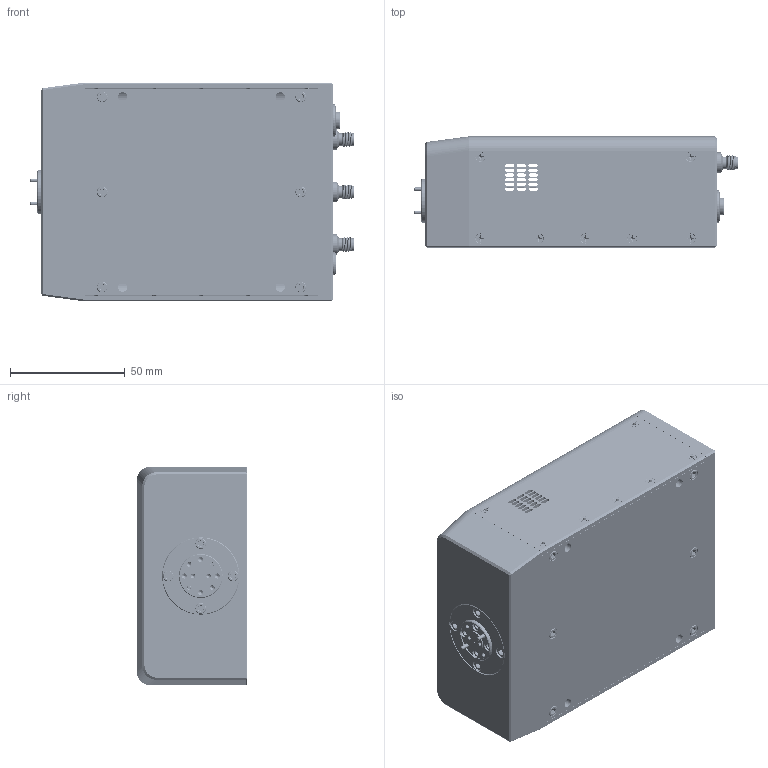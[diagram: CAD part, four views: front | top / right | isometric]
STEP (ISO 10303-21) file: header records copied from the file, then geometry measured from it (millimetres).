
FILE_DESCRIPTION (( 'STEP AP214' ), '1' );
FILE_NAME ('TO-TD-A Mountable.STEP', '2024-11-20T20:51:38', ( '' ), ( '' ), 'SwSTEP 2.0', 'SolidWorks 2021', '' );
FILE_SCHEMA (( 'AUTOMOTIVE_DESIGN' ));
Length unit declared in the file: inch
Products named in the file (1): TO-TD-A Mountable
Bounding box: 140.66 x 48.26 x 95.25 mm (x, y, z)
Volume: 178099.7 mm3; surface area: 116517.2 mm2
Topology: 62 solids, 62 shells, 3752 faces, 9952 edges, 6327 vertices
Faces by surface type: cylinder 1751, plane 942, cone 679, bspline 351, sphere 21, torus 8
Entity records: 263573 total; most frequent: CARTESIAN_POINT 130480, ORIENTED_EDGE 19570, DIRECTION 15089, EDGE_CURVE 9785, VERTEX_POINT 6321, AXIS2_PLACEMENT_3D 5723, EDGE_LOOP 4132, DIMENSIONAL_EXPONENTS 3815
